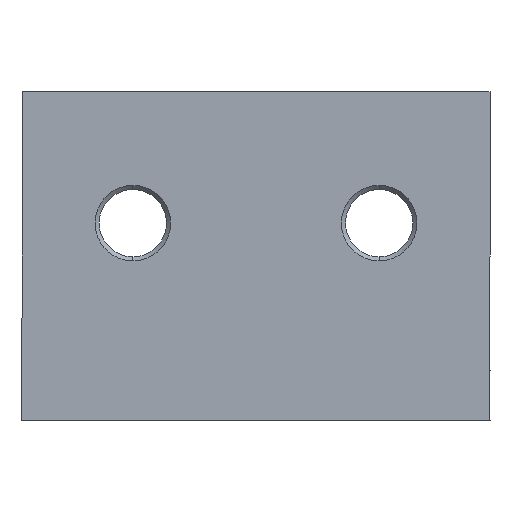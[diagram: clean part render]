
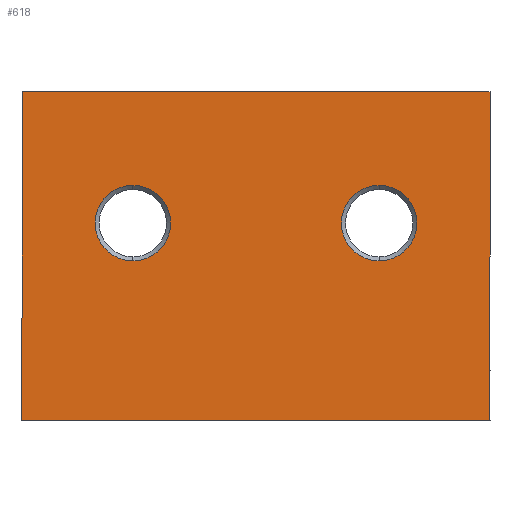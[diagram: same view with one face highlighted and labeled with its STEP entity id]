
A CAD part, front view. The second image highlights one B-rep face of the part: STEP entity #618.
In plain terms, the highlighted planar face has unit normal (0, -1, 0).
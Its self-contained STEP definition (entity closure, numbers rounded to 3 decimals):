
#5 = DIRECTION ( 'NONE',  ( 0., 0., 1. ) ) ;
#18 = VECTOR ( 'NONE', #1159, 1000. ) ;
#31 = CARTESIAN_POINT ( 'NONE',  ( -28.5, 0., 20. ) ) ;
#55 = VECTOR ( 'NONE', #361, 1000. ) ;
#66 = AXIS2_PLACEMENT_3D ( 'NONE', #1253, #190, #941 ) ;
#154 = CARTESIAN_POINT ( 'NONE',  ( -15., 0., 4. ) ) ;
#173 = VERTEX_POINT ( 'NONE', #456 ) ;
#175 = EDGE_CURVE ( 'NONE', #1319, #430, #658, .T. ) ;
#178 = ORIENTED_EDGE ( 'NONE', *, *, #737, .T. ) ;
#190 = DIRECTION ( 'NONE',  ( 0., 1., 0. ) ) ;
#200 = LINE ( 'NONE', #425, #740 ) ;
#217 = AXIS2_PLACEMENT_3D ( 'NONE', #154, #903, #266 ) ;
#225 = EDGE_CURVE ( 'NONE', #701, #1315, #298, .T. ) ;
#240 = CARTESIAN_POINT ( 'NONE',  ( -15., 0., 4. ) ) ;
#253 = CARTESIAN_POINT ( 'NONE',  ( 15., 0., 4. ) ) ;
#266 = DIRECTION ( 'NONE',  ( 0., 0., 1. ) ) ;
#298 = LINE ( 'NONE', #1059, #18 ) ;
#304 = EDGE_CURVE ( 'NONE', #1315, #1319, #200, .T. ) ;
#347 = DIRECTION ( 'NONE',  ( 0., 0., 1. ) ) ;
#354 = CIRCLE ( 'NONE', #1091, 4.6 ) ;
#356 = CARTESIAN_POINT ( 'NONE',  ( -28.5, 0., -20. ) ) ;
#358 = DIRECTION ( 'NONE',  ( 0., 0., 1. ) ) ;
#361 = DIRECTION ( 'NONE',  ( 0., 0., -1. ) ) ;
#366 = VECTOR ( 'NONE', #654, 1000. ) ;
#375 = FACE_BOUND ( 'NONE', #565, .T. ) ;
#395 = EDGE_LOOP ( 'NONE', ( #570, #588 ) ) ;
#425 = CARTESIAN_POINT ( 'NONE',  ( -28.5, 0., -20. ) ) ;
#430 = VERTEX_POINT ( 'NONE', #531 ) ;
#456 = CARTESIAN_POINT ( 'NONE',  ( -15., 0., 8.6 ) ) ;
#497 = CIRCLE ( 'NONE', #507, 4.6 ) ;
#507 = AXIS2_PLACEMENT_3D ( 'NONE', #1229, #602, #1340 ) ;
#531 = CARTESIAN_POINT ( 'NONE',  ( 28.5, 0., 20. ) ) ;
#565 = EDGE_LOOP ( 'NONE', ( #178, #1007 ) ) ;
#570 = ORIENTED_EDGE ( 'NONE', *, *, #1074, .T. ) ;
#581 = ORIENTED_EDGE ( 'NONE', *, *, #175, .F. ) ;
#588 = ORIENTED_EDGE ( 'NONE', *, *, #708, .T. ) ;
#602 = DIRECTION ( 'NONE',  ( 0., 1., 0. ) ) ;
#618 = ADVANCED_FACE ( 'NONE', ( #662, #375, #1220 ), #1149, .F. ) ;
#630 = LINE ( 'NONE', #1115, #55 ) ;
#652 = VERTEX_POINT ( 'NONE', #1373 ) ;
#654 = DIRECTION ( 'NONE',  ( 1., 0., 0. ) ) ;
#658 = LINE ( 'NONE', #762, #366 ) ;
#662 = FACE_BOUND ( 'NONE', #395, .T. ) ;
#665 = VERTEX_POINT ( 'NONE', #946 ) ;
#669 = ORIENTED_EDGE ( 'NONE', *, *, #225, .F. ) ;
#701 = VERTEX_POINT ( 'NONE', #1066 ) ;
#708 = EDGE_CURVE ( 'NONE', #173, #652, #1095, .T. ) ;
#737 = EDGE_CURVE ( 'NONE', #665, #1184, #497, .T. ) ;
#740 = VECTOR ( 'NONE', #5, 1000. ) ;
#749 = CIRCLE ( 'NONE', #800, 4.6 ) ;
#762 = CARTESIAN_POINT ( 'NONE',  ( -28.5, 0., 20. ) ) ;
#800 = AXIS2_PLACEMENT_3D ( 'NONE', #240, #992, #347 ) ;
#903 = DIRECTION ( 'NONE',  ( 0., 1., 0. ) ) ;
#910 = ORIENTED_EDGE ( 'NONE', *, *, #304, .F. ) ;
#941 = DIRECTION ( 'NONE',  ( 0., 0., 1. ) ) ;
#946 = CARTESIAN_POINT ( 'NONE',  ( 15., 0., -0.6 ) ) ;
#948 = EDGE_CURVE ( 'NONE', #430, #701, #630, .T. ) ;
#992 = DIRECTION ( 'NONE',  ( 0., 1., 0. ) ) ;
#1003 = DIRECTION ( 'NONE',  ( 0., 1., 0. ) ) ;
#1007 = ORIENTED_EDGE ( 'NONE', *, *, #1134, .T. ) ;
#1017 = EDGE_LOOP ( 'NONE', ( #1044, #581, #910, #669 ) ) ;
#1044 = ORIENTED_EDGE ( 'NONE', *, *, #948, .F. ) ;
#1059 = CARTESIAN_POINT ( 'NONE',  ( -28.5, 0., -20. ) ) ;
#1066 = CARTESIAN_POINT ( 'NONE',  ( 28.5, 0., -20. ) ) ;
#1074 = EDGE_CURVE ( 'NONE', #652, #173, #749, .T. ) ;
#1091 = AXIS2_PLACEMENT_3D ( 'NONE', #253, #1003, #358 ) ;
#1095 = CIRCLE ( 'NONE', #217, 4.6 ) ;
#1115 = CARTESIAN_POINT ( 'NONE',  ( 28.5, 0., -20. ) ) ;
#1116 = CARTESIAN_POINT ( 'NONE',  ( 15., 0., 8.6 ) ) ;
#1134 = EDGE_CURVE ( 'NONE', #1184, #665, #354, .T. ) ;
#1149 = PLANE ( 'NONE',  #66 ) ;
#1159 = DIRECTION ( 'NONE',  ( -1., 0., 0. ) ) ;
#1184 = VERTEX_POINT ( 'NONE', #1116 ) ;
#1220 = FACE_OUTER_BOUND ( 'NONE', #1017, .T. ) ;
#1229 = CARTESIAN_POINT ( 'NONE',  ( 15., 0., 4. ) ) ;
#1253 = CARTESIAN_POINT ( 'NONE',  ( 0., 0., 0. ) ) ;
#1315 = VERTEX_POINT ( 'NONE', #356 ) ;
#1319 = VERTEX_POINT ( 'NONE', #31 ) ;
#1340 = DIRECTION ( 'NONE',  ( 0., 0., 1. ) ) ;
#1373 = CARTESIAN_POINT ( 'NONE',  ( -15., 0., -0.6 ) ) ;
